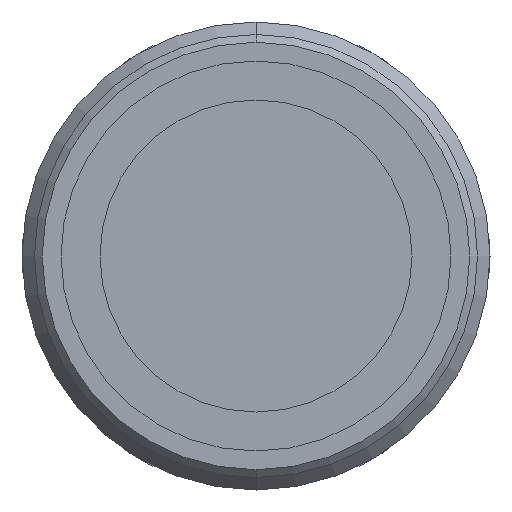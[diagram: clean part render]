
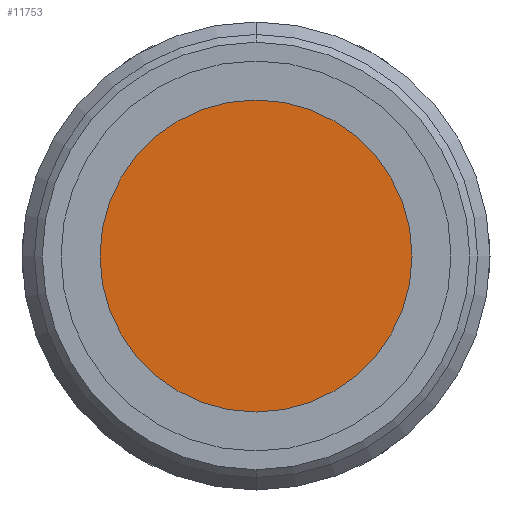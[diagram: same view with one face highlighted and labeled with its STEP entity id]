
A CAD part, front view. The second image highlights one B-rep face of the part: STEP entity #11753.
In plain terms, the highlighted planar face has unit normal (0, -1, 0).
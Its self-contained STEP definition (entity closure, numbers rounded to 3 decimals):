
#298 = DIRECTION ( 'NONE',  ( 0., 0., -1. ) ) ;
#508 = CARTESIAN_POINT ( 'NONE',  ( 0., -8.899, 10. ) ) ;
#1327 = AXIS2_PLACEMENT_3D ( 'NONE', #11319, #10341, #4089 ) ;
#1933 = AXIS2_PLACEMENT_3D ( 'NONE', #12706, #6518, #298 ) ;
#2573 = DIRECTION ( 'NONE',  ( 0., -1., 0. ) ) ;
#2904 = CARTESIAN_POINT ( 'NONE',  ( 0., -8.899, -10. ) ) ;
#2942 = VERTEX_POINT ( 'NONE', #508 ) ;
#4089 = DIRECTION ( 'NONE',  ( 0., 0., 1. ) ) ;
#4980 = CIRCLE ( 'NONE', #11797, 10. ) ;
#4984 = ORIENTED_EDGE ( 'NONE', *, *, #10631, .T. ) ;
#6518 = DIRECTION ( 'NONE',  ( 0., -1., 0. ) ) ;
#6906 = ORIENTED_EDGE ( 'NONE', *, *, #9050, .T. ) ;
#6995 = VERTEX_POINT ( 'NONE', #2904 ) ;
#7715 = EDGE_LOOP ( 'NONE', ( #4984, #6906 ) ) ;
#8751 = CARTESIAN_POINT ( 'NONE',  ( 0., -8.899, 0. ) ) ;
#8808 = FACE_OUTER_BOUND ( 'NONE', #7715, .T. ) ;
#9017 = CIRCLE ( 'NONE', #1933, 10. ) ;
#9050 = EDGE_CURVE ( 'NONE', #2942, #6995, #9017, .T. ) ;
#9833 = DIRECTION ( 'NONE',  ( 0., 0., -1. ) ) ;
#10341 = DIRECTION ( 'NONE',  ( 0., 1., 0. ) ) ;
#10631 = EDGE_CURVE ( 'NONE', #6995, #2942, #4980, .T. ) ;
#11319 = CARTESIAN_POINT ( 'NONE',  ( -10., -8.899, 0. ) ) ;
#11753 = ADVANCED_FACE ( 'NONE', ( #8808 ), #12201, .F. ) ;
#11797 = AXIS2_PLACEMENT_3D ( 'NONE', #8751, #2573, #9833 ) ;
#12201 = PLANE ( 'NONE',  #1327 ) ;
#12706 = CARTESIAN_POINT ( 'NONE',  ( 0., -8.899, 0. ) ) ;
